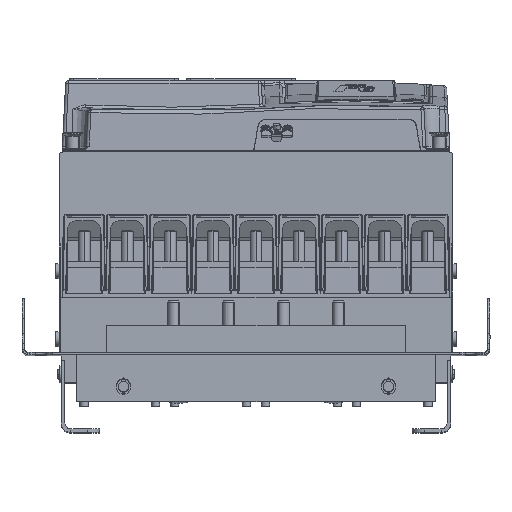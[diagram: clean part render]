
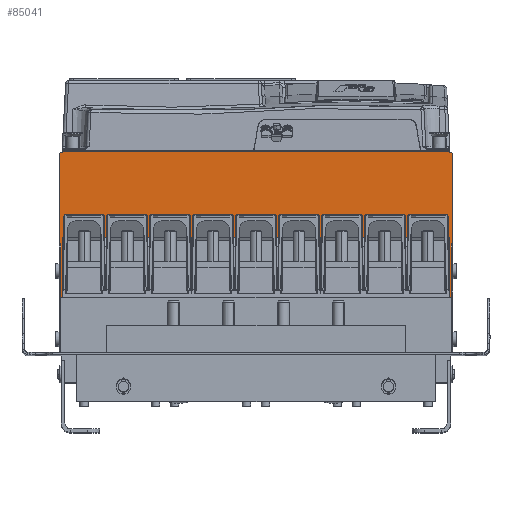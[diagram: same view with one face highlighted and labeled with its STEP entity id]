
A CAD part, top view. The second image highlights one B-rep face of the part: STEP entity #85041.
In plain terms, the highlighted planar face has unit normal (0, 0, 1).
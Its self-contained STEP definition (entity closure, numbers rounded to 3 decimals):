
#957 = ORIENTED_EDGE ( 'NONE', *, *, #48502, .F. ) ;
#1975 = CARTESIAN_POINT ( 'NONE',  ( -165., -3.5, 453. ) ) ;
#3741 = CARTESIAN_POINT ( 'NONE',  ( -165., -3.5, 453. ) ) ;
#3874 = EDGE_CURVE ( 'NONE', #35385, #60761, #34890, .T. ) ;
#4333 = ORIENTED_EDGE ( 'NONE', *, *, #84472, .F. ) ;
#5276 = CARTESIAN_POINT ( 'NONE',  ( 0., -167.9, 453. ) ) ;
#5353 = LINE ( 'NONE', #30690, #30559 ) ;
#5834 = VERTEX_POINT ( 'NONE', #56686 ) ;
#9987 = VECTOR ( 'NONE', #23341, 1000. ) ;
#10647 = CARTESIAN_POINT ( 'NONE',  ( -163.5, -77., 453. ) ) ;
#13734 = LINE ( 'NONE', #5276, #91318 ) ;
#14074 = EDGE_CURVE ( 'NONE', #60761, #87669, #20146, .T. ) ;
#15588 = CARTESIAN_POINT ( 'NONE',  ( 163.5, -167.9, 453. ) ) ;
#17326 = EDGE_CURVE ( 'NONE', #60975, #100955, #104867, .T. ) ;
#20146 = CIRCLE ( 'NONE', #29697, 3.5 ) ;
#22555 = DIRECTION ( 'NONE',  ( 1., 0., 0. ) ) ;
#23341 = DIRECTION ( 'NONE',  ( -1., 0., 0. ) ) ;
#25086 = DIRECTION ( 'NONE',  ( 0., 1., 0. ) ) ;
#25189 = AXIS2_PLACEMENT_3D ( 'NONE', #70205, #106905, #25086 ) ;
#25823 = ORIENTED_EDGE ( 'NONE', *, *, #76682, .F. ) ;
#25990 = CARTESIAN_POINT ( 'NONE',  ( 0., 0., 453. ) ) ;
#26316 = DIRECTION ( 'NONE',  ( 0., 1., 0. ) ) ;
#26583 = CARTESIAN_POINT ( 'NONE',  ( 165., -3.5, 453. ) ) ;
#28713 = DIRECTION ( 'NONE',  ( 0., 1., 0. ) ) ;
#29595 = EDGE_CURVE ( 'NONE', #108871, #57927, #83788, .T. ) ;
#29697 = AXIS2_PLACEMENT_3D ( 'NONE', #45586, #109908, #28713 ) ;
#30559 = VECTOR ( 'NONE', #49365, 1000. ) ;
#30690 = CARTESIAN_POINT ( 'NONE',  ( 165., -3.5, 453. ) ) ;
#32916 = VECTOR ( 'NONE', #64801, 1000. ) ;
#33200 = EDGE_LOOP ( 'NONE', ( #957, #45425, #39678, #33294, #25823, #86118, #4333, #99128, #112352, #97886 ) ) ;
#33294 = ORIENTED_EDGE ( 'NONE', *, *, #53175, .F. ) ;
#34890 = LINE ( 'NONE', #64191, #32916 ) ;
#35385 = VERTEX_POINT ( 'NONE', #76642 ) ;
#35719 = VECTOR ( 'NONE', #22555, 1000. ) ;
#39160 = VERTEX_POINT ( 'NONE', #10647 ) ;
#39678 = ORIENTED_EDGE ( 'NONE', *, *, #41677, .T. ) ;
#40829 = VERTEX_POINT ( 'NONE', #49056 ) ;
#41677 = EDGE_CURVE ( 'NONE', #100955, #39160, #104956, .T. ) ;
#45231 = PLANE ( 'NONE',  #75349 ) ;
#45425 = ORIENTED_EDGE ( 'NONE', *, *, #17326, .T. ) ;
#45586 = CARTESIAN_POINT ( 'NONE',  ( 161.5, -3.5, 453. ) ) ;
#47460 = VECTOR ( 'NONE', #101861, 1000. ) ;
#48502 = EDGE_CURVE ( 'NONE', #60975, #35385, #69328, .T. ) ;
#49025 = VECTOR ( 'NONE', #26316, 1000. ) ;
#49056 = CARTESIAN_POINT ( 'NONE',  ( -163.5, -167.9, 453. ) ) ;
#49365 = DIRECTION ( 'NONE',  ( 0., 1., 0. ) ) ;
#53090 = FACE_OUTER_BOUND ( 'NONE', #33200, .T. ) ;
#53175 = EDGE_CURVE ( 'NONE', #40829, #39160, #81006, .T. ) ;
#56686 = CARTESIAN_POINT ( 'NONE',  ( 165., -77., 453. ) ) ;
#56744 = CARTESIAN_POINT ( 'NONE',  ( 163.5, 0., 453. ) ) ;
#57927 = VERTEX_POINT ( 'NONE', #15588 ) ;
#60761 = VERTEX_POINT ( 'NONE', #88723 ) ;
#60975 = VERTEX_POINT ( 'NONE', #1975 ) ;
#64191 = CARTESIAN_POINT ( 'NONE',  ( 0., 0., 453. ) ) ;
#64801 = DIRECTION ( 'NONE',  ( 1., 0., 0. ) ) ;
#65971 = CARTESIAN_POINT ( 'NONE',  ( -165., -77., 453. ) ) ;
#69328 = CIRCLE ( 'NONE', #25189, 3.5 ) ;
#70205 = CARTESIAN_POINT ( 'NONE',  ( -161.5, -3.5, 453. ) ) ;
#70846 = DIRECTION ( 'NONE',  ( -1., 0., 0. ) ) ;
#74337 = DIRECTION ( 'NONE',  ( 0., -1., 0. ) ) ;
#75349 = AXIS2_PLACEMENT_3D ( 'NONE', #25990, #99395, #90339 ) ;
#75462 = CARTESIAN_POINT ( 'NONE',  ( -165.001, -77., 453. ) ) ;
#76642 = CARTESIAN_POINT ( 'NONE',  ( -161.5, 0., 453. ) ) ;
#76682 = EDGE_CURVE ( 'NONE', #57927, #40829, #13734, .T. ) ;
#76826 = LINE ( 'NONE', #117746, #9987 ) ;
#81006 = LINE ( 'NONE', #91847, #49025 ) ;
#83788 = LINE ( 'NONE', #56744, #47460 ) ;
#84472 = EDGE_CURVE ( 'NONE', #5834, #108871, #76826, .T. ) ;
#85041 = ADVANCED_FACE ( 'NONE', ( #53090 ), #45231, .F. ) ;
#86118 = ORIENTED_EDGE ( 'NONE', *, *, #29595, .F. ) ;
#87669 = VERTEX_POINT ( 'NONE', #26583 ) ;
#88723 = CARTESIAN_POINT ( 'NONE',  ( 161.5, 0., 453. ) ) ;
#90339 = DIRECTION ( 'NONE',  ( 0., 1., 0. ) ) ;
#91318 = VECTOR ( 'NONE', #70846, 1000. ) ;
#91847 = CARTESIAN_POINT ( 'NONE',  ( -163.5, 0., 453. ) ) ;
#93638 = EDGE_CURVE ( 'NONE', #5834, #87669, #5353, .T. ) ;
#97648 = VECTOR ( 'NONE', #74337, 1000. ) ;
#97886 = ORIENTED_EDGE ( 'NONE', *, *, #3874, .F. ) ;
#99128 = ORIENTED_EDGE ( 'NONE', *, *, #93638, .T. ) ;
#99395 = DIRECTION ( 'NONE',  ( 0., 0., -1. ) ) ;
#100955 = VERTEX_POINT ( 'NONE', #65971 ) ;
#101861 = DIRECTION ( 'NONE',  ( 0., -1., 0. ) ) ;
#104867 = LINE ( 'NONE', #3741, #97648 ) ;
#104956 = LINE ( 'NONE', #75462, #35719 ) ;
#106905 = DIRECTION ( 'NONE',  ( 0., 0., -1. ) ) ;
#108871 = VERTEX_POINT ( 'NONE', #109113 ) ;
#109113 = CARTESIAN_POINT ( 'NONE',  ( 163.5, -77., 453. ) ) ;
#109908 = DIRECTION ( 'NONE',  ( 0., 0., -1. ) ) ;
#112352 = ORIENTED_EDGE ( 'NONE', *, *, #14074, .F. ) ;
#117746 = CARTESIAN_POINT ( 'NONE',  ( 165.001, -77., 453. ) ) ;
